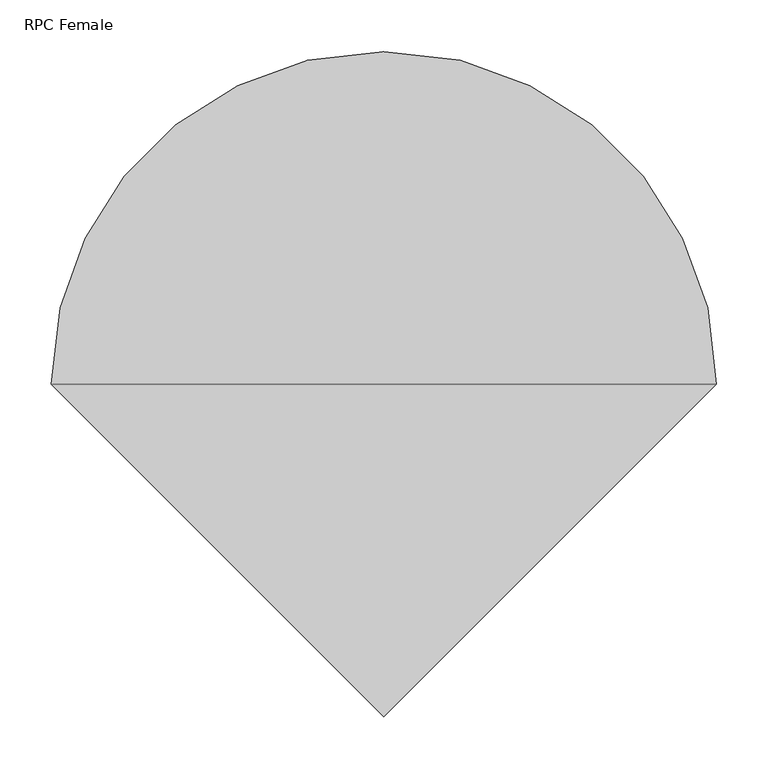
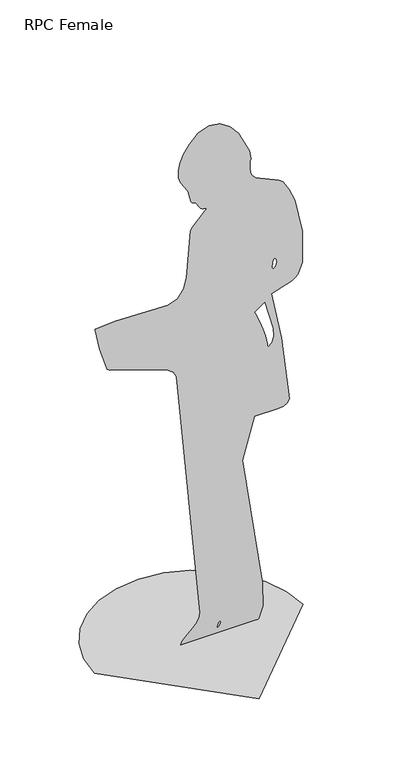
"""IFC4 building model written with IfcOpenShell, lengths in millimetres: proxy geometry, RPC Female : Lisa."""

import ifcopenshell
import ifcopenshell.guid

model = None  # the IFC model being written
_history = None  # IfcOwnerHistory: only IFC2X3 demands one
_inside = {}  # id of a spatial element -> (the spatial element, [elements in it])
_under = {}  # id of a project, library or spatial element -> (it, [spatial elements below it])
_declared = {}  # id of a project -> (the project, [libraries it declares])
_typed = {}  # id of a type object -> (the type object, [elements of that type])
_made_of = {}  # id of a material, layer set ... -> (it, [elements and type objects made of it])


def new_model(schema):
    """Start an empty IFC model of exactly this schema.

    Asked for "IFC4X3", IfcOpenShell would pick the latest addendum, in which some entities
    have other attributes; the version numbers below select the first issue.
    IFC2X3 requires an IfcOwnerHistory on every rooted entity: one is made here for all.
    """
    global model, _history
    if schema == "IFC4X3":
        model = ifcopenshell.file(schema_version=(4, 3, 0, 0))
    else:
        model = ifcopenshell.file(schema=schema)
    _inside.clear()
    _under.clear()
    _declared.clear()
    _typed.clear()
    _made_of.clear()
    _history = None
    if model.schema == "IFC2X3":
        org = make("IfcOrganization", Name="unknown")
        user = make(
            "IfcPersonAndOrganization",
            ThePerson=make("IfcPerson", FamilyName="unknown"),
            TheOrganization=org,
        )
        app = make(
            "IfcApplication",
            ApplicationDeveloper=org,
            Version="unknown",
            ApplicationFullName="unknown",
            ApplicationIdentifier="unknown",
        )
        _history = make(
            "IfcOwnerHistory",
            OwningUser=user,
            OwningApplication=app,
            ChangeAction="ADDED",
            CreationDate=0,
        )
    return model


def make(cls, **values):
    """One entity of the class cls with the attributes given. An attribute that is None is left unset."""
    return model.create_entity(
        cls, **{name: value for name, value in values.items() if value is not None}
    )


def rooted(cls, **values):
    """An entity with a GlobalId (a new one), such as an element, a storey or a relation."""
    return make(cls, GlobalId=ifcopenshell.guid.new(), OwnerHistory=_history, **values)


def si_unit(unit_type, name, prefix=None):
    """IfcSIUnit, for example si_unit("LENGTHUNIT", "METRE", prefix="MILLI")."""
    return make("IfcSIUnit", UnitType=unit_type, Prefix=prefix, Name=name)


def assignment(units):
    """IfcUnitAssignment: the units of a project."""
    return None if units is None else make("IfcUnitAssignment", Units=units)


def point(xyz):
    """IfcCartesianPoint."""
    return None if xyz is None else make("IfcCartesianPoint", Coordinates=xyz)


def direction(xyz):
    """IfcDirection."""
    return None if xyz is None else make("IfcDirection", DirectionRatios=xyz)


def frame(location, z_axis=None, x_axis=None):
    """IfcAxis2Placement3D, a coordinate frame: its origin and axes. An axis left out is left unset."""
    return make(
        "IfcAxis2Placement3D",
        Location=point(location),
        Axis=direction(z_axis),
        RefDirection=direction(x_axis),
    )


def origin():
    """The frame at (0, 0, 0) with its axes left unset."""
    return frame((0.0, 0.0, 0.0))


def place(relative_to, where):
    """IfcLocalPlacement: puts the frame where relative to a parent placement (None: the world)."""
    return make(
        "IfcLocalPlacement", PlacementRelTo=relative_to, RelativePlacement=where
    )


def context(
    kind, dimensions, precision=None, world=None, true_north=None, identifier=None
):
    """IfcGeometricRepresentationContext, for example the 3D "Model" context."""
    return make(
        "IfcGeometricRepresentationContext",
        ContextIdentifier=identifier,
        ContextType=kind,
        CoordinateSpaceDimension=dimensions,
        Precision=precision,
        WorldCoordinateSystem=world,
        TrueNorth=true_north,
    )


def project(units=None, contexts=None):
    """IfcProject with its units and contexts."""
    return rooted(
        "IfcProject",
        Name="project",
        RepresentationContexts=contexts,
        UnitsInContext=assignment(units),
    )


def spatial(cls, under=None, at=None, **own):
    """A site, building, storey or space (cls), placed at a placement, below another one or the project."""
    s = rooted(cls, ObjectPlacement=at, **own)
    if under is not None:
        _under.setdefault(under.id(), (under, []))[1].append(s)
    return s


def point_list(points):
    """IfcCartesianPointList2D or 3D."""
    cls = (
        "IfcCartesianPointList2D" if len(points[0]) == 2 else "IfcCartesianPointList3D"
    )
    return make(cls, CoordList=points)


def triangles(points, corners, closed=None, point_numbers=None):
    """IfcTriangulatedFaceSet: each triangle names its three corners, points numbered from 1."""
    return make(
        "IfcTriangulatedFaceSet",
        Coordinates=point_list(points),
        Closed=closed,
        CoordIndex=corners,
        PnIndex=point_numbers,
    )


def shape(context_of_items, identifier, shape_type, items):
    """IfcShapeRepresentation: the items that make up one representation, for example the "Body"."""
    return make(
        "IfcShapeRepresentation",
        ContextOfItems=context_of_items,
        RepresentationIdentifier=identifier,
        RepresentationType=shape_type,
        Items=items,
    )


def source(mapping_origin, context_of_items, identifier, shape_type, items):
    """IfcRepresentationMap: a shape defined once, which mapped items show again and again."""
    return make(
        "IfcRepresentationMap",
        MappingOrigin=mapping_origin,
        MappedRepresentation=shape(context_of_items, identifier, shape_type, items),
    )


def transform(
    local_origin,
    x_axis=None,
    y_axis=None,
    z_axis=None,
    scale=None,
    scale2=None,
    scale3=None,
    uniform=True,
):
    """IfcCartesianTransformationOperator3D, or its non-uniform kind. x_axis, y_axis, z_axis: its Axis1, 2, 3."""
    if uniform:
        return make(
            "IfcCartesianTransformationOperator3D",
            Axis1=direction(x_axis),
            Axis2=direction(y_axis),
            LocalOrigin=point(local_origin),
            Scale=scale,
            Axis3=direction(z_axis),
        )
    return make(
        "IfcCartesianTransformationOperator3DnonUniform",
        Axis1=direction(x_axis),
        Axis2=direction(y_axis),
        LocalOrigin=point(local_origin),
        Scale=scale,
        Axis3=direction(z_axis),
        Scale2=scale2,
        Scale3=scale3,
    )


def mapped(mapping_source, mapping_target):
    """IfcMappedItem: shows the shape of a source again, moved by a transform."""
    return make(
        "IfcMappedItem", MappingSource=mapping_source, MappingTarget=mapping_target
    )


def made_of(thing, what):
    """Note that an element or type object is made of a material, layer set ...; save() writes the relation."""
    if what is not None:
        _made_of.setdefault(what.id(), (what, []))[1].append(thing)
    return thing


def element(
    cls,
    number,
    at=None,
    inside=None,
    cuts=None,
    type_object=None,
    material=None,
    context=None,
    identifier="Body",
    shape_type=None,
    held_by="IfcProductDefinitionShape",
    body=None,
    shapes=None,
    **own,
):
    """One element of the class cls, such as IfcWall. Its Tag is "e" and its number.

    at: its placement. inside: the storey or other place that contains it. cuts: it is an
    opening in that element (IfcRelVoidsElement). A single representation is given by context,
    identifier, shape_type and body (its items); several are given by shapes. held_by: the class
    of the entity that holds the representations. save() writes the other relations.
    """
    e = rooted(cls, Tag="e%d" % number, ObjectPlacement=at, **own)
    if body is not None:
        shapes = [shape(context, identifier, shape_type, body)]
    if shapes is not None:
        e.Representation = make(held_by, Representations=shapes)
    if inside is not None:
        _inside.setdefault(inside.id(), (inside, []))[1].append(e)
    if cuts is not None:
        rooted(
            "IfcRelVoidsElement", RelatingBuildingElement=cuts, RelatedOpeningElement=e
        )
    if type_object is not None:
        _typed.setdefault(type_object.id(), (type_object, []))[1].append(e)
    return made_of(e, material)


def aggregate(whole, parts):
    """IfcRelAggregates: a whole, such as a stair, and the parts it consists of."""
    return rooted("IfcRelAggregates", RelatingObject=whole, RelatedObjects=parts)


def save(model, path):
    """Write the relations noted so far, then the file.

    IfcRelAggregates (storeys below a building ...), IfcRelContainedInSpatialStructure (elements
    in a storey), IfcRelDefinesByType, IfcRelAssociatesMaterial and IfcRelDeclares: one each for
    every whole, place, type object, material and project.
    """
    for whole, parts in _under.values():
        aggregate(whole, parts)
    for where, things in _inside.values():
        rooted(
            "IfcRelContainedInSpatialStructure",
            RelatedElements=things,
            RelatingStructure=where,
        )
    for kind, things in _typed.values():
        rooted("IfcRelDefinesByType", RelatedObjects=things, RelatingType=kind)
    for what, things in _made_of.values():
        rooted("IfcRelAssociatesMaterial", RelatedObjects=things, RelatingMaterial=what)
    for by, libraries in _declared.values():
        rooted("IfcRelDeclares", RelatingContext=by, RelatedDefinitions=libraries)
    model.write(path)


def rpc_female_aec5a013(model_context):
    return source(origin(), model_context, "Body", "Tessellation", [
        triangles([(323.55714, 0.0002011, 4.31e-05), (315.003338, 74.1380801, 4.31e-05), (290.6422523, 142.2218604, 4.31e-05), (252.4244724, 202.3008604, 4.31e-05), (202.3008059, 252.4245814, 4.31e-05), (142.2217514, 290.6422886, 4.31e-05), (74.1379711, 315.003447, 4.31e-05), (0.0001118, 323.557249, 4.31e-05), (-74.1377576, 315.003447, 4.31e-05), (-142.2215424, 290.6423431, 4.31e-05), (-202.3005515, 252.4245814, 4.31e-05), (-252.4243089, 202.3009149, 4.31e-05), (-290.6419797, 142.2218422, 4.31e-05), (-315.0031199, 74.1380664, 4.31e-05), (-323.556922, 0.0002066, 4.31e-05), (0.0001345, -323.556813, 4.31e-05), (239.7155461, -0.0024821, 1166.2291054), (241.5671591, -0.0024453, 1161.6157969), (242.5844117, -0.0023971, 1155.5697269), (242.4387992, -0.0023449, 1149.0417097), (240.802035, -0.0022965, 1142.9829952), (237.3454509, -0.0022592, 1138.3443249), (231.7406877, -0.0022408, 1136.0765854), (228.7156361, -0.0022542, 1137.7761183), (227.3342342, -0.0022926, 1142.5880339), (228.6198207, -0.0024031, 1156.4203291), (230.8453571, -0.0024548, 1162.8766211), (233.8316392, -0.0024904, 1167.3168297), (237.3580228, -0.0024998, 1168.4587658), (232.3851614, -0.0006708, 939.5053717), (233.2271703, -0.0004644, 913.6590569), (228.0144798, -0.0003049, 893.7186316), (214.8887911, -0.0002183, 882.9673256), (212.8489084, -0.0003717, 902.1807604), (207.5316821, -0.0005509, 924.6499557), (200.1408723, -0.0007392, 948.2795454), (191.8801301, -0.0009201, 970.9742357), (183.9532157, -0.0010767, 990.6387331), (177.563762, -0.0011925, 1005.1777439), (173.9154927, -0.0012508, 1012.4958292), (205.6367214, -0.0014424, 1036.2868189), (68.0155341, 0.0065606, 35.1859178), (68.3548802, 0.0065864, 31.9534865), (67.1147442, 0.0066181, 27.9900225), (62.1449576, 0.0066794, 20.3530545), (59.5397978, 0.0066989, 17.9209935), (57.6041283, 0.0067044, 17.2407831), (56.3838631, 0.0066925, 18.7385183), (56.501216, 0.0066679, 21.8255596), (59.4210051, 0.0066023, 30.0203991), (61.5595964, 0.0065723, 33.7551594), (63.7080572, 0.0065516, 36.3327024), (65.5344401, 0.0065457, 37.0666397), (199.6881201, 0.0065196, 39.4558675), (198.4421388, 0.0059101, 115.768188), (135.8335603, 0.0025305, 539.3201328), (174.0394677, 0.0014804, 670.542065), (245.5741638, 0.0014783, 670.3427313), (262.8130825, 0.0014526, 673.4447222), (275.84906, 0.0013998, 679.9665625), (282.7096696, 0.0013115, 690.9874741), (257.8416199, -0.0003504, 899.2227287), (226.66042, -0.0015969, 1055.4929867), (289.796737, -0.0017705, 1076.8137056), (300.5432649, -0.0018246, 1083.5191103), (308.4004706, -0.0018879, 1091.3857813), (322.1901449, -0.0021673, 1126.2816891), (322.886178, -0.0029802, 1228.0536747), (298.565951, -0.0038491, 1337.0047279), (281.0851866, -0.0041986, 1380.8742886), (262.2230204, -0.0044349, 1410.5811962), (250.0464744, -0.0045155, 1420.7485989), (176.8737423, -0.0047799, 1454.3395718), (165.8199294, -0.0048739, 1466.1760586), (162.904337, -0.00492, 1471.9682922), (160.6014253, -0.0049813, 1479.6591019), (159.0181643, -0.0050521, 1488.5277466), (159.6554438, -0.0052634, 1514.9892128), (162.0199978, -0.0053144, 1521.3580101), (157.2200546, -0.0055454, 1550.3042084), (123.1476431, -0.0060968, 1619.5682945), (96.7598279, -0.0063371, 1649.8205177), (66.0607524, -0.0065002, 1670.4420788), (32.4927251, -0.006546, 1676.4), (-2.5019012, -0.0064344, 1662.6614491), (-29.4130598, -0.0062285, 1637.0601048), (-47.9634423, -0.0060193, 1610.9874229), (-59.0861691, -0.0058139, 1585.3437847), (-63.7143613, -0.0056195, 1561.0297165), (-62.7811788, -0.0054432, 1538.9461807), (-57.2196996, -0.0052921, 1519.9931225), (-33.763421, -0.0050094, 1484.4516872), (-23.4502333, -0.0046956, 1445.0888283), (-21.9944378, -0.0046776, 1442.8234142), (-21.2605709, -0.0046685, 1441.6813328), (-20.7350171, -0.0046648, 1441.2126114), (-19.9041471, -0.0046628, 1440.9669868), (-18.2543602, -0.0046592, 1440.4947773), (-15.272017, -0.0046501, 1439.3457195), (-10.4435032, -0.0046322, 1437.069841), (5.6148508, -0.0044554, 1414.8345703), (9.271162, -0.0044304, 1411.6780769), (14.0533369, -0.0044149, 1409.7007267), (20.5959585, -0.0044097, 1409.0118153), (23.5075336, -0.0043928, 1406.8681961), (19.6093908, -0.004345, 1400.9185593), (-20.4444416, -0.0040148, 1359.8386539), (-25.6642197, -0.0039395, 1350.4428612), (-38.3351555, -0.0027409, 1200.4557953), (-47.8502179, -0.0024695, 1166.542749), (-65.8721511, -0.0022718, 1141.9037006), (-95.3849391, -0.0021789, 1130.4592684), (-259.8646069, -0.0022058, 1134.9048546), (-318.3029549, -0.00218, 1132.0589527), (-321.9124002, -0.0021697, 1130.793405), (-322.5551662, -0.0021658, 1130.3113123), (-322.88596, -0.0021617, 1129.7984076), (-308.628291, -0.0016091, 1060.5184067), (-285.0727521, -0.0010211, 986.743404), (-277.451851, -0.0009685, 980.1137941), (-100.0195944, -0.0004954, 919.7210415), (-78.3459718, -0.000372, 904.1187235), (-69.2809683, -0.0002246, 885.6107689), (3.4135975, 0.0061696, 84.5657866), (0.0373612, 0.0063051, 67.6165078), (-8.1503865, 0.0064193, 53.3745945), (-19.3216154, 0.0065172, 41.1892918), (-43.3023578, 0.0066846, 20.3858174), (-52.4557871, 0.0067643, 10.4659911), (-57.2805471, 0.0068482, 0.0), (186.0811745, 0.0068354, 0.0)], [[15, 16, 1], [14, 15, 1], [14, 1, 2], [13, 14, 2], [13, 2, 3], [13, 3, 4], [12, 13, 4], [11, 12, 4], [11, 4, 5], [11, 5, 6], [11, 6, 7], [11, 7, 8], [11, 8, 9], [11, 9, 10], [33, 56, 57], [39, 40, 53], [38, 39, 53], [37, 38, 53], [129, 130, 131], [128, 129, 131], [22, 23, 63], [33, 57, 58], [33, 58, 59], [33, 59, 60], [33, 60, 61], [33, 61, 62], [32, 33, 62], [31, 32, 62], [30, 31, 62], [41, 30, 62], [41, 62, 63], [22, 63, 64], [22, 64, 65], [22, 65, 66], [22, 66, 67], [21, 22, 67], [20, 21, 67], [19, 20, 67], [18, 19, 67], [18, 67, 68], [17, 18, 68], [29, 17, 68], [63, 23, 24], [52, 53, 40], [37, 53, 42], [29, 68, 69], [28, 29, 69], [41, 63, 24], [115, 116, 117], [114, 115, 117], [114, 117, 118], [113, 114, 118], [113, 118, 119], [113, 119, 120], [112, 113, 120], [112, 120, 121], [111, 112, 121], [111, 121, 122], [28, 69, 70], [28, 70, 71], [28, 71, 72], [28, 72, 73], [27, 28, 73], [40, 41, 24], [40, 24, 25], [51, 52, 40], [110, 111, 122], [110, 122, 123], [27, 73, 74], [83, 84, 85], [82, 83, 85], [82, 85, 86], [81, 82, 86], [81, 86, 87], [81, 87, 88], [81, 88, 89], [81, 89, 90], [81, 90, 91], [80, 81, 91], [80, 91, 92], [79, 80, 92], [78, 79, 92], [77, 78, 92], [77, 92, 93], [77, 93, 94], [77, 94, 95], [77, 95, 96], [77, 96, 97], [77, 97, 98], [77, 98, 99], [77, 99, 100], [76, 77, 100], [76, 100, 101], [76, 101, 102], [76, 102, 103], [76, 103, 104], [76, 104, 105], [75, 76, 105], [74, 75, 105], [27, 74, 105], [27, 105, 106], [27, 106, 107], [27, 107, 108], [27, 108, 109], [26, 27, 109], [25, 26, 109], [25, 109, 110], [25, 110, 123], [40, 25, 123], [51, 40, 123], [51, 123, 124], [51, 124, 125], [50, 51, 125], [50, 125, 126], [49, 50, 126], [49, 126, 127], [48, 49, 127], [48, 127, 128], [47, 48, 128], [47, 128, 131], [46, 47, 131], [45, 46, 131], [44, 45, 131], [43, 44, 131], [43, 131, 54], [43, 54, 55], [42, 43, 55], [56, 33, 34], [56, 34, 35], [56, 35, 36], [56, 36, 37], [56, 37, 42], [56, 42, 55]], closed=False),
    ])


if __name__ == "__main__":
    model = new_model("IFC4")
    model_context = context("Model", 3, world=origin())
    ifc_project = project(units=[si_unit("LENGTHUNIT", "METRE", prefix="MILLI")], contexts=[model_context])
    site = spatial("IfcSite", under=ifc_project)
    building = spatial("IfcBuilding", under=site)
    placement = place(None, origin())
    rpc_female_shape = rpc_female_aec5a013(model_context)
    element("IfcBuildingElementProxy", 1, Name="RPC Female : Lisa", ObjectType="RPC Female : Lisa", at=placement, inside=building, context=model_context, shape_type="MappedRepresentation", body=[
        mapped(rpc_female_shape, transform((0.0, 0.0, 0.0), x_axis=(1.0, 0.0, 0.0), y_axis=(0.0, 1.0, 0.0), z_axis=(0.0, 0.0, 1.0))),
    ])
    save(model, "model.ifc")
